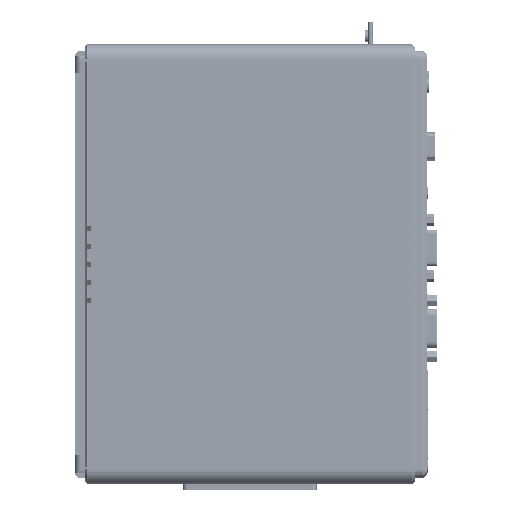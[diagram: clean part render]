
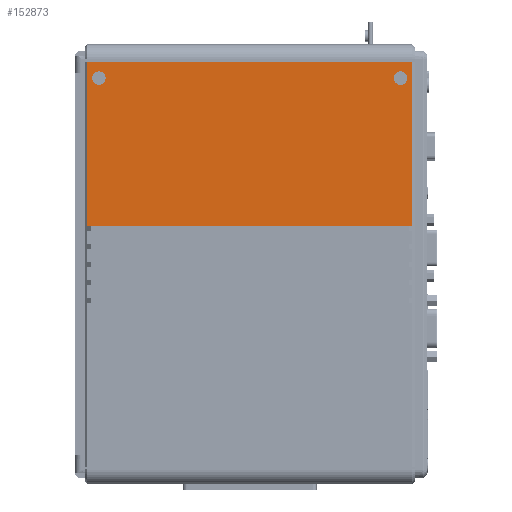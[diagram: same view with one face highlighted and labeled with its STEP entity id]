
A CAD part, front view. The second image highlights one B-rep face of the part: STEP entity #152873.
In plain terms, the highlighted planar face has unit normal (0, -1, 0).
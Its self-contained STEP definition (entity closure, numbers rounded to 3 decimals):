
#10038=DIRECTION('',(0.,0.,-1.));
#10039=VECTOR('',#10038,73.3);
#10040=CARTESIAN_POINT('',(1.2,-6.5,188.3));
#10041=LINE('',#10040,#10039);
#10058=DIRECTION('',(1.,0.,0.));
#10059=VECTOR('',#10058,144.6);
#10060=CARTESIAN_POINT('',(1.2,-6.5,188.3));
#10061=LINE('',#10060,#10059);
#10062=CARTESIAN_POINT('',(140.7,-6.5,181.));
#10063=DIRECTION('',(0.,-1.,0.));
#10064=DIRECTION('',(0.,0.,1.));
#10065=AXIS2_PLACEMENT_3D('',#10062,#10063,#10064);
#10067=CARTESIAN_POINT('',(140.7,-6.5,181.));
#10068=DIRECTION('',(0.,-1.,0.));
#10069=DIRECTION('',(0.,0.,-1.));
#10070=AXIS2_PLACEMENT_3D('',#10067,#10068,#10069);
#10072=CARTESIAN_POINT('',(6.3,-6.5,181.));
#10073=DIRECTION('',(0.,-1.,0.));
#10074=DIRECTION('',(0.,0.,1.));
#10075=AXIS2_PLACEMENT_3D('',#10072,#10073,#10074);
#10077=CARTESIAN_POINT('',(6.3,-6.5,181.));
#10078=DIRECTION('',(0.,-1.,0.));
#10079=DIRECTION('',(0.,0.,-1.));
#10080=AXIS2_PLACEMENT_3D('',#10077,#10078,#10079);
#10082=DIRECTION('',(0.,0.,1.));
#10083=VECTOR('',#10082,73.3);
#10084=CARTESIAN_POINT('',(145.8,-6.5,115.));
#10085=LINE('',#10084,#10083);
#10314=DIRECTION('',(1.,0.,0.));
#10315=VECTOR('',#10314,144.6);
#10316=CARTESIAN_POINT('',(1.2,-6.5,115.));
#10317=LINE('',#10316,#10315);
#123522=CARTESIAN_POINT('',(1.2,-6.5,188.3));
#123523=VERTEX_POINT('',#123522);
#123524=CARTESIAN_POINT('',(145.8,-6.5,188.3));
#123525=VERTEX_POINT('',#123524);
#123526=CARTESIAN_POINT('',(140.7,-6.5,184.));
#123527=CARTESIAN_POINT('',(140.7,-6.5,178.));
#123528=VERTEX_POINT('',#123526);
#123529=VERTEX_POINT('',#123527);
#123530=CARTESIAN_POINT('',(6.3,-6.5,184.));
#123531=CARTESIAN_POINT('',(6.3,-6.5,178.));
#123532=VERTEX_POINT('',#123530);
#123533=VERTEX_POINT('',#123531);
#123562=CARTESIAN_POINT('',(145.8,-6.5,115.));
#123563=VERTEX_POINT('',#123562);
#123580=CARTESIAN_POINT('',(1.2,-6.5,115.));
#123581=VERTEX_POINT('',#123580);
#152848=CARTESIAN_POINT('',(73.5,-6.5,151.65));
#152849=DIRECTION('',(0.,1.,0.));
#152850=DIRECTION('',(0.,0.,-1.));
#152851=AXIS2_PLACEMENT_3D('',#152848,#152849,#152850);
#152852=PLANE('',#152851);
#152853=ORIENTED_EDGE('',*,*,#152838,.T.);
#152855=ORIENTED_EDGE('',*,*,#152854,.F.);
#152857=ORIENTED_EDGE('',*,*,#152856,.F.);
#152858=ORIENTED_EDGE('',*,*,#152789,.F.);
#152859=EDGE_LOOP('',(#152853,#152855,#152857,#152858));
#152860=FACE_OUTER_BOUND('',#152859,.F.);
#152862=ORIENTED_EDGE('',*,*,#152861,.T.);
#152864=ORIENTED_EDGE('',*,*,#152863,.T.);
#152865=EDGE_LOOP('',(#152862,#152864));
#152866=FACE_BOUND('',#152865,.F.);
#152868=ORIENTED_EDGE('',*,*,#152867,.T.);
#152870=ORIENTED_EDGE('',*,*,#152869,.T.);
#152871=EDGE_LOOP('',(#152868,#152870));
#152872=FACE_BOUND('',#152871,.F.);
#152873=ADVANCED_FACE('',(#152860,#152866,#152872),#152852,.F.);
#10066=CIRCLE('',#10065,3.);
#10071=CIRCLE('',#10070,3.);
#10076=CIRCLE('',#10075,3.);
#10081=CIRCLE('',#10080,3.);
#152789=EDGE_CURVE('',#123523,#123581,#10041,.T.);
#152838=EDGE_CURVE('',#123523,#123525,#10061,.T.);
#152854=EDGE_CURVE('',#123563,#123525,#10085,.T.);
#152856=EDGE_CURVE('',#123581,#123563,#10317,.T.);
#152861=EDGE_CURVE('',#123528,#123529,#10066,.T.);
#152863=EDGE_CURVE('',#123529,#123528,#10071,.T.);
#152867=EDGE_CURVE('',#123532,#123533,#10076,.T.);
#152869=EDGE_CURVE('',#123533,#123532,#10081,.T.);
